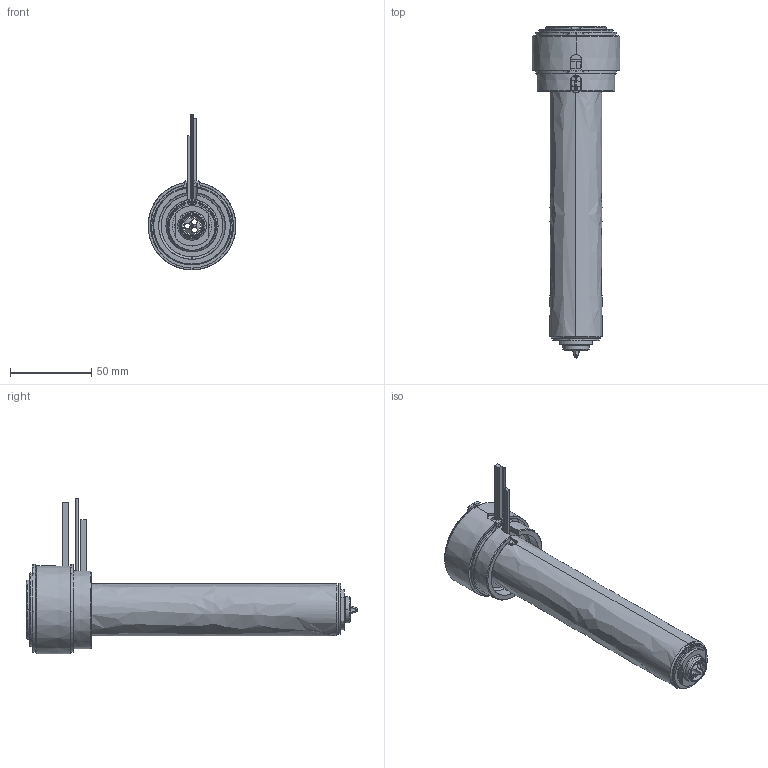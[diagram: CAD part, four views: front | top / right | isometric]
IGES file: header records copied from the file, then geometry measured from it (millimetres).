
Start section: SolidWorks IGES file using analytic representation for surfaces
Global section: file name: C:\Documents and Settings\ws-20\Desktop\TEM\UGEP5504-M-A-1 [Øf-1.55 ØC-13].IGS; native system: SolidWorks 2012; preprocessor: SolidWorks 2012; author: ws-20; date: 120427.081921; units: millimetre
Bounding box: 54 x 204.05 x 95.62 mm (x, y, z)
Surface area: 83478.2 mm2 (no closed solid volume)
Topology: 0 solids, 0 shells, 183 faces, 3616 edges, 3616 vertices
Faces by surface type: revolution 118, bspline 65
